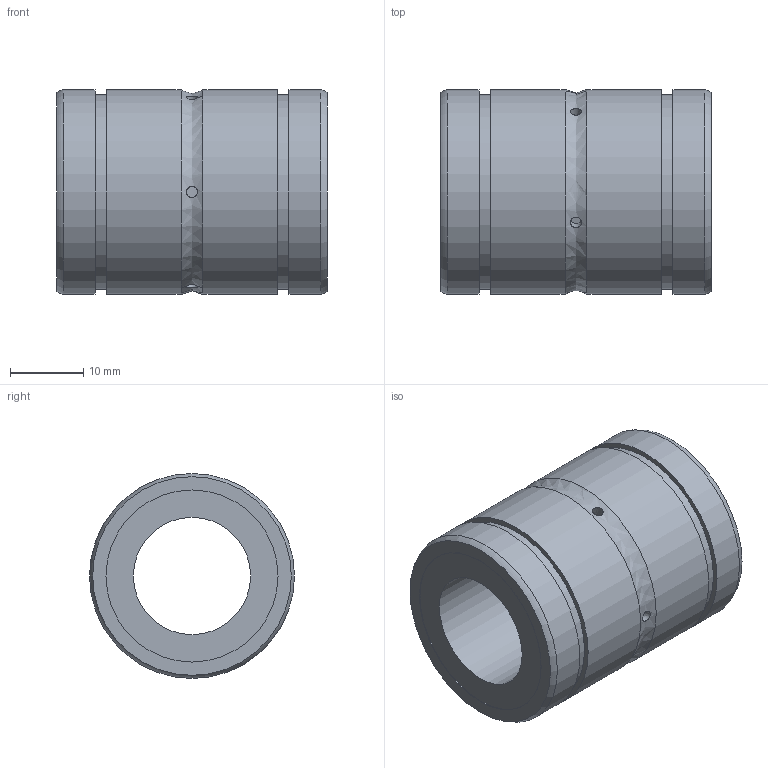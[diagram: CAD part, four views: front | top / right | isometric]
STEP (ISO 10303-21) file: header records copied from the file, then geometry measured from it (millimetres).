
FILE_DESCRIPTION((''),'2;1');
FILE_NAME('D:\製品 (図面)\カタログ用3D\リニアベアリング関連\STEP形式\L-OH\L16-OH.stp','2010-06-04T09:30:13',('Tsuchiya'),(''),'Autodesk Inventor 10','Autodesk Inventor 10','');
FILE_SCHEMA(('AUTOMOTIVE_DESIGN { 1 0 10303 214 1 1 1 1 }'));
Length unit declared in the file: millimetre
Products named in the file (1): L16-OH
Bounding box: 37 x 28 x 28 mm (x, y, z)
Volume: 14970.6 mm3; surface area: 6170.4 mm2
Topology: 1 solids, 1 shells, 30 faces, 52 edges, 35 vertices
Faces by surface type: cylinder 14, plane 8, bspline 6, torus 2
Full cylindrical faces by diameter (mm): 16 x1, 23.5 x2, 26.6 x2, 28 x4
Entity records: 1180 total; most frequent: CARTESIAN_POINT 694, DIRECTION 90, ORIENTED_EDGE 60, EDGE_LOOP 60, AXIS2_PLACEMENT_3D 45, VERTEX_POINT 30, EDGE_CURVE 30, FACE_OUTER_BOUND 30
